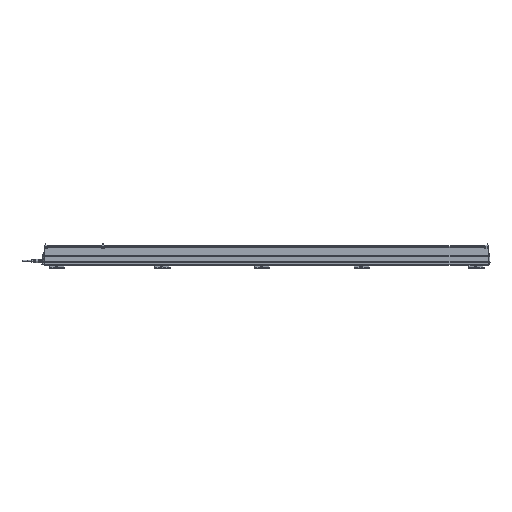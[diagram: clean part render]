
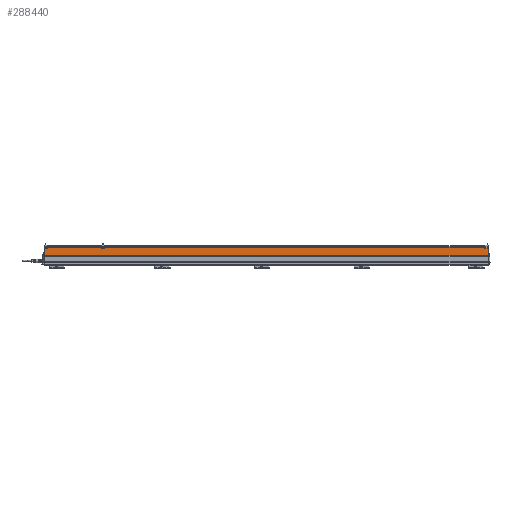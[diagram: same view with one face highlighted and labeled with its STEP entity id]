
A CAD part, front view. The second image highlights one B-rep face of the part: STEP entity #288440.
In plain terms, the highlighted planar face has unit normal (0, -1, 0) as drawn and (0, 1, 0) by its records, which use the part's own axes.
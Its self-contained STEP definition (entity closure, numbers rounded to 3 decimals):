
#103021=ORIENTED_EDGE('',*,*,#146657,.F.);
#103022=ORIENTED_EDGE('',*,*,#146622,.F.);
#103023=ORIENTED_EDGE('',*,*,#146656,.F.);
#103024=ORIENTED_EDGE('',*,*,#146561,.F.);
#125961=VECTOR('',#169133,1.);
#125988=VECTOR('',#169234,1.);
#126018=VECTOR('',#169328,1.);
#126019=VECTOR('',#169331,1.);
#132538=LINE('',#192981,#125961);
#132565=LINE('',#193104,#125988);
#132595=LINE('',#193170,#126018);
#132596=LINE('',#193172,#126019);
#139126=VERTEX_POINT('',#192978);
#139127=VERTEX_POINT('',#192980);
#139185=VERTEX_POINT('',#193101);
#139186=VERTEX_POINT('',#193103);
#146561=EDGE_CURVE('',#139126,#139127,#132538,.T.);
#146622=EDGE_CURVE('',#139185,#139186,#132565,.T.);
#146656=EDGE_CURVE('',#139127,#139185,#132595,.T.);
#146657=EDGE_CURVE('',#139186,#139126,#132596,.T.);
#158158=EDGE_LOOP('',(#103021,#103022,#103023,#103024));
#163546=FACE_BOUND('',#158158,.T.);
#169133=DIRECTION('',(36.287,0.,0.));
#169234=DIRECTION('',(-36.287,0.,0.));
#169328=DIRECTION('',(0.,0.,2035.));
#169329=DIRECTION('',(0.,1.,0.));
#169330=DIRECTION('',(1.,0.,0.));
#169331=DIRECTION('',(0.,0.,-2035.));
#192978=CARTESIAN_POINT('',(-29.322,15.,-1910.));
#192980=CARTESIAN_POINT('',(6.965,15.,-1910.));
#192981=CARTESIAN_POINT('',(-29.322,15.,-1910.));
#193101=CARTESIAN_POINT('',(6.965,15.,125.));
#193103=CARTESIAN_POINT('',(-29.322,15.,125.));
#193104=CARTESIAN_POINT('',(6.965,15.,125.));
#193170=CARTESIAN_POINT('',(6.965,15.,-1910.));
#193171=CARTESIAN_POINT('',(-29.322,15.,125.));
#193172=CARTESIAN_POINT('',(-29.322,15.,125.));
#277836=AXIS2_PLACEMENT_3D('',#193171,#169329,#169330);
#286351=PLANE('',#277836);
#288440=ADVANCED_FACE('',(#163546),#286351,.T.);
